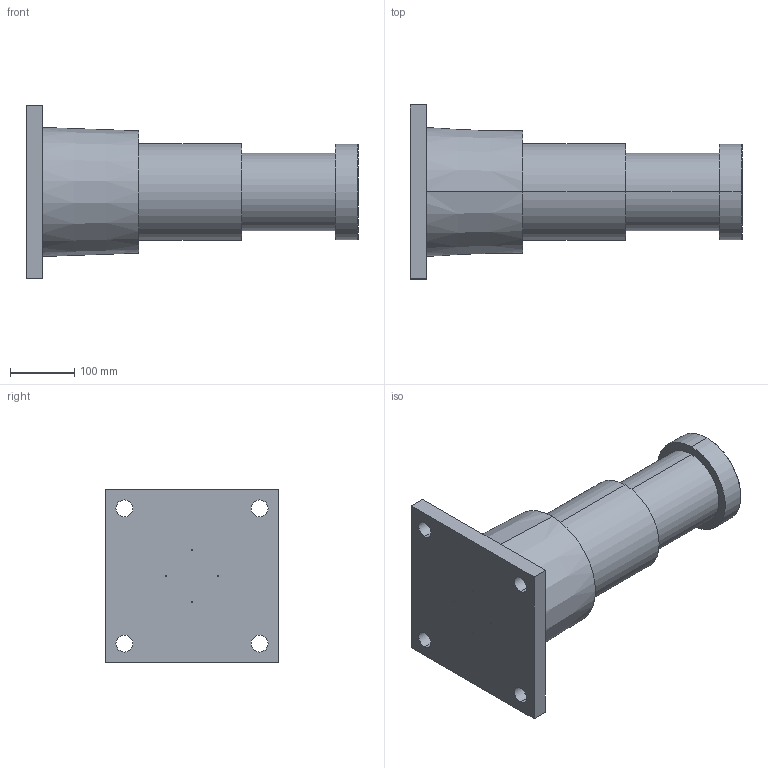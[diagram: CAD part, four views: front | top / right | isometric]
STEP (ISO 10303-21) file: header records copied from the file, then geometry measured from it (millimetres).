
FILE_DESCRIPTION (( 'STEP AP214' ), '1' );
FILE_NAME ('LDH150X115FR.STEP', '2019-01-21T05:03:59', ( 'user' ), ( 'Microsoft' ), 'SwSTEP 2.0', 'SolidWorks 2016', '' );
FILE_SCHEMA (( 'AUTOMOTIVE_DESIGN' ));
Length unit declared in the file: millimetre
Products named in the file (1): LDH150X115FR
Bounding box: 516 x 270 x 270 mm (x, y, z)
Volume: 11347473.9 mm3; surface area: 424988.8 mm2
Topology: 1 solids, 1 shells, 40 faces, 88 edges, 58 vertices
Faces by surface type: cylinder 22, plane 14, cone 4
Entity records: 1176 total; most frequent: DIRECTION 220, CARTESIAN_POINT 187, ORIENTED_EDGE 176, AXIS2_PLACEMENT_3D 91, EDGE_CURVE 88, VERTEX_POINT 58, EDGE_LOOP 56, CIRCLE 50
